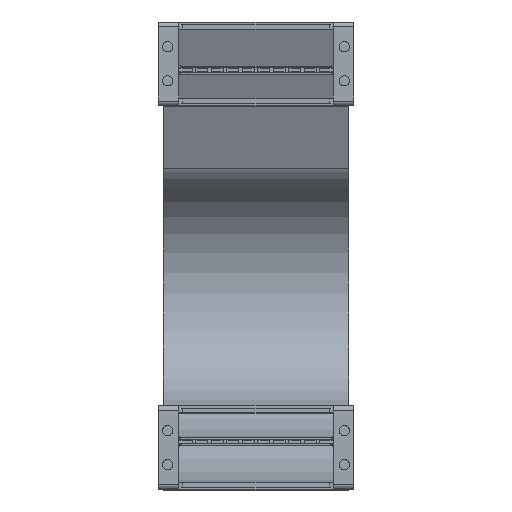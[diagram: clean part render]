
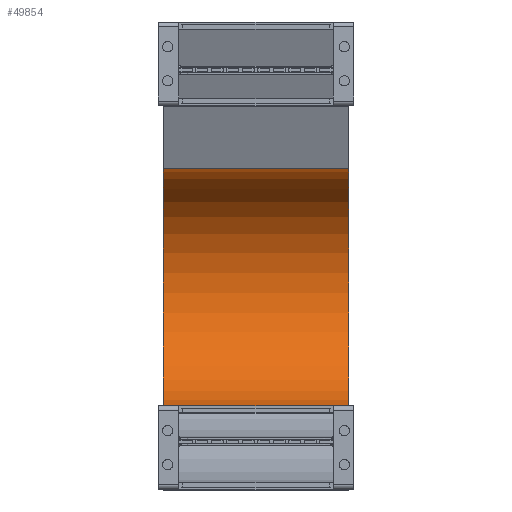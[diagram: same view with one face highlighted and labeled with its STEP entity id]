
A CAD part, top view. The second image highlights one B-rep face of the part: STEP entity #49854.
In plain terms, the highlighted cylindrical face has radius 77 mm (diameter 154 mm), a partial arc.
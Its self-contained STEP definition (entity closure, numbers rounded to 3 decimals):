
#49006=DIRECTION('',(-1.,0.,0.));
#49007=VECTOR('',#49006,120.);
#49008=CARTESIAN_POINT('',(60.,54.,-500.));
#49009=LINE('',#49008,#49007);
#49020=DIRECTION('',(-1.,0.,0.));
#49021=VECTOR('',#49020,120.);
#49022=CARTESIAN_POINT('',(60.,207.627,-507.567));
#49023=LINE('',#49022,#49021);
#49027=CARTESIAN_POINT('',(60.,131.,-500.));
#49028=DIRECTION('',(-1.,0.,0.));
#49029=DIRECTION('',(0.,0.995,-0.098));
#49030=AXIS2_PLACEMENT_3D('',#49027,#49028,#49029);
#49106=CARTESIAN_POINT('',(-60.,131.,-500.));
#49107=DIRECTION('',(-1.,0.,0.));
#49108=DIRECTION('',(0.,0.995,-0.098));
#49109=AXIS2_PLACEMENT_3D('',#49106,#49107,#49108);
#49228=CARTESIAN_POINT('',(60.,207.627,-507.567));
#49229=CARTESIAN_POINT('',(-60.,207.627,-507.567));
#49230=VERTEX_POINT('',#49228);
#49231=VERTEX_POINT('',#49229);
#49252=CARTESIAN_POINT('',(60.,54.,-500.));
#49253=CARTESIAN_POINT('',(-60.,54.,-500.));
#49254=VERTEX_POINT('',#49252);
#49255=VERTEX_POINT('',#49253);
#49840=CARTESIAN_POINT('',(1.,131.,-500.));
#49841=DIRECTION('',(-1.,0.,0.));
#49842=DIRECTION('',(0.,-0.995,0.098));
#49843=AXIS2_PLACEMENT_3D('',#49840,#49841,#49842);
#49844=CYLINDRICAL_SURFACE('',#49843,77.);
#49846=ORIENTED_EDGE('',*,*,#49845,.F.);
#49848=ORIENTED_EDGE('',*,*,#49847,.T.);
#49849=ORIENTED_EDGE('',*,*,#49823,.T.);
#49851=ORIENTED_EDGE('',*,*,#49850,.F.);
#49852=EDGE_LOOP('',(#49846,#49848,#49849,#49851));
#49853=FACE_OUTER_BOUND('',#49852,.F.);
#49031=CIRCLE('',#49030,77.);
#49110=CIRCLE('',#49109,77.);
#49823=EDGE_CURVE('',#49254,#49255,#49009,.T.);
#49845=EDGE_CURVE('',#49230,#49231,#49023,.T.);
#49847=EDGE_CURVE('',#49230,#49254,#49031,.T.);
#49850=EDGE_CURVE('',#49231,#49255,#49110,.T.);
#49854=ADVANCED_FACE('',(#49853),#49844,.F.);
